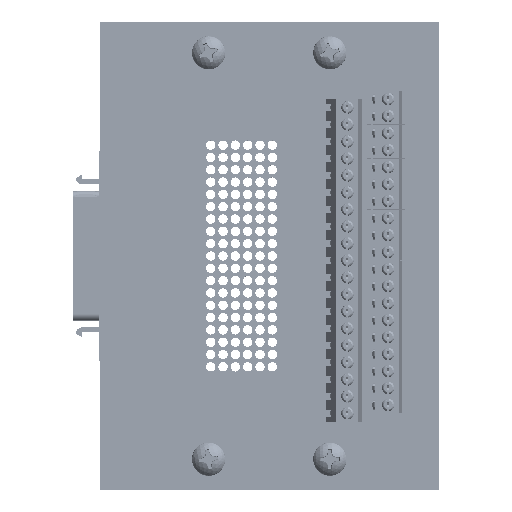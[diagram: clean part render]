
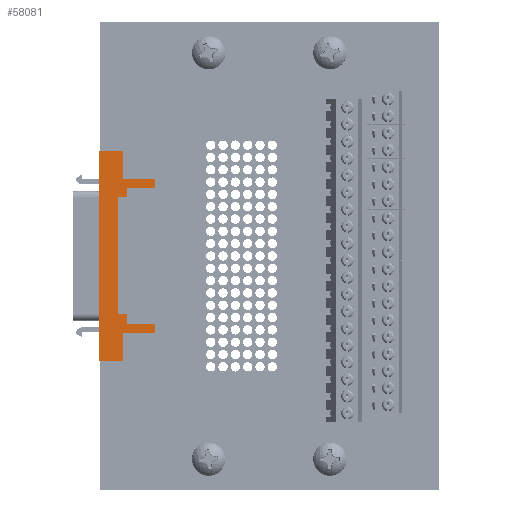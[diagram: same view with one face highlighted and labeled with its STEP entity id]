
A CAD part, top view. The second image highlights one B-rep face of the part: STEP entity #58081.
In plain terms, the highlighted planar face has unit normal (0, 0, 1) as drawn and (0, 1, 0) by its records, which use the part's own axes.
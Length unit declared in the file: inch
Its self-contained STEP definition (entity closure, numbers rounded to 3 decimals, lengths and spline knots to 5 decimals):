
#2733 = VECTOR ( 'NONE', #289558, 39.37008 ) ;
#4441 = CARTESIAN_POINT ( 'NONE',  ( -0.625, 0.37, 0.5275 ) ) ;
#6428 = ORIENTED_EDGE ( 'NONE', *, *, #193450, .T. ) ;
#14424 = ORIENTED_EDGE ( 'NONE', *, *, #263017, .T. ) ;
#15750 = DIRECTION ( 'NONE',  ( -1., 0., 0. ) ) ;
#17171 = LINE ( 'NONE', #116602, #277796 ) ;
#21225 = EDGE_CURVE ( 'NONE', #308977, #80038, #167020, .T. ) ;
#21893 = CARTESIAN_POINT ( 'NONE',  ( 0.625, 0.37, 0.1125 ) ) ;
#24079 = DIRECTION ( 'NONE',  ( 0., 0., -1. ) ) ;
#25393 = VECTOR ( 'NONE', #292263, 39.37008 ) ;
#28828 = VERTEX_POINT ( 'NONE', #254784 ) ;
#30666 = CARTESIAN_POINT ( 'NONE',  ( -0.855, 0.37, 0.3025 ) ) ;
#30918 = EDGE_LOOP ( 'NONE', ( #189302, #213794, #255925, #6428, #226644, #263156, #75652, #289342, #160190, #306452, #14424, #246751, #215505, #171228, #82869, #95259 ) ) ;
#31154 = LINE ( 'NONE', #65639, #153840 ) ;
#33376 = DIRECTION ( 'NONE',  ( 0., 0., -1. ) ) ;
#33661 = PLANE ( 'NONE',  #111152 ) ;
#35344 = DIRECTION ( 'NONE',  ( -1., 0., 0. ) ) ;
#45726 = EDGE_CURVE ( 'NONE', #119980, #143614, #17171, .T. ) ;
#45839 = LINE ( 'NONE', #217790, #295389 ) ;
#51338 = VECTOR ( 'NONE', #33376, 39.37008 ) ;
#51523 = VECTOR ( 'NONE', #249966, 39.37008 ) ;
#52700 = VERTEX_POINT ( 'NONE', #299709 ) ;
#55469 = DIRECTION ( 'NONE',  ( 0., 0., 1. ) ) ;
#58081 = ADVANCED_FACE ( 'NONE', ( #143855 ), #33661, .T. ) ;
#58694 = EDGE_CURVE ( 'NONE', #224138, #52700, #187957, .T. ) ;
#58721 = LINE ( 'NONE', #270594, #51338 ) ;
#59173 = CARTESIAN_POINT ( 'NONE',  ( -0.855, 0.37, 0.5275 ) ) ;
#65639 = CARTESIAN_POINT ( 'NONE',  ( 0., 0.37, 0.075 ) ) ;
#66839 = VERTEX_POINT ( 'NONE', #30666 ) ;
#69007 = VECTOR ( 'NONE', #123923, 39.37008 ) ;
#75652 = ORIENTED_EDGE ( 'NONE', *, *, #150614, .T. ) ;
#77088 = EDGE_CURVE ( 'NONE', #28828, #240525, #263693, .T. ) ;
#78751 = CARTESIAN_POINT ( 'NONE',  ( -0.55, 0.37, -0.1475 ) ) ;
#80038 = VERTEX_POINT ( 'NONE', #169685 ) ;
#80782 = LINE ( 'NONE', #59173, #214817 ) ;
#82869 = ORIENTED_EDGE ( 'NONE', *, *, #306972, .T. ) ;
#83521 = CARTESIAN_POINT ( 'NONE',  ( 0., 0.37, -0.1475 ) ) ;
#84588 = CARTESIAN_POINT ( 'NONE',  ( -0.855, 0.37, 0.3025 ) ) ;
#87003 = CARTESIAN_POINT ( 'NONE',  ( 0.55, 0.37, -0.1475 ) ) ;
#95259 = ORIENTED_EDGE ( 'NONE', *, *, #45726, .T. ) ;
#95727 = CARTESIAN_POINT ( 'NONE',  ( -0.55, 0.37, 0.075 ) ) ;
#96043 = DIRECTION ( 'NONE',  ( 0., 0., 1. ) ) ;
#99109 = CARTESIAN_POINT ( 'NONE',  ( 0.475, 0.37, 0.5275 ) ) ;
#104658 = DIRECTION ( 'NONE',  ( 0., 0., -1. ) ) ;
#106759 = EDGE_CURVE ( 'NONE', #220211, #255208, #198721, .T. ) ;
#111152 = AXIS2_PLACEMENT_3D ( 'NONE', #84588, #200074, #203175 ) ;
#111550 = CARTESIAN_POINT ( 'NONE',  ( 0.55, 0.37, 0.075 ) ) ;
#113452 = LINE ( 'NONE', #125954, #69007 ) ;
#116602 = CARTESIAN_POINT ( 'NONE',  ( 0., 0.37, 0.1125 ) ) ;
#119980 = VERTEX_POINT ( 'NONE', #216712 ) ;
#120826 = VECTOR ( 'NONE', #35344, 39.37008 ) ;
#121719 = CARTESIAN_POINT ( 'NONE',  ( 0.855, 0.37, 0.3025 ) ) ;
#123923 = DIRECTION ( 'NONE',  ( 0., 0., -1. ) ) ;
#125445 = EDGE_CURVE ( 'NONE', #143614, #66839, #80782, .T. ) ;
#125954 = CARTESIAN_POINT ( 'NONE',  ( -0.55, 0.37, 0.5275 ) ) ;
#128888 = DIRECTION ( 'NONE',  ( -1., 0., 0. ) ) ;
#131059 = EDGE_CURVE ( 'NONE', #235013, #28828, #58721, .T. ) ;
#131263 = VERTEX_POINT ( 'NONE', #138235 ) ;
#138235 = CARTESIAN_POINT ( 'NONE',  ( 0.475, 0.37, 0.075 ) ) ;
#141225 = CARTESIAN_POINT ( 'NONE',  ( 0., 0.37, 0.15 ) ) ;
#141725 = VECTOR ( 'NONE', #24079, 39.37008 ) ;
#143614 = VERTEX_POINT ( 'NONE', #284558 ) ;
#143855 = FACE_OUTER_BOUND ( 'NONE', #30918, .T. ) ;
#147539 = EDGE_CURVE ( 'NONE', #299285, #131263, #31154, .T. ) ;
#150614 = EDGE_CURVE ( 'NONE', #240525, #299285, #45839, .T. ) ;
#153039 = CARTESIAN_POINT ( 'NONE',  ( 0.855, 0.37, 0.1125 ) ) ;
#153840 = VECTOR ( 'NONE', #15750, 39.37008 ) ;
#159548 = VECTOR ( 'NONE', #308768, 39.37008 ) ;
#160190 = ORIENTED_EDGE ( 'NONE', *, *, #203394, .T. ) ;
#162729 = LINE ( 'NONE', #195798, #2733 ) ;
#163454 = DIRECTION ( 'NONE',  ( -1., 0., 0. ) ) ;
#165693 = EDGE_CURVE ( 'NONE', #286090, #224138, #113452, .T. ) ;
#167020 = LINE ( 'NONE', #141225, #159548 ) ;
#169685 = CARTESIAN_POINT ( 'NONE',  ( -0.475, 0.37, 0.15 ) ) ;
#171228 = ORIENTED_EDGE ( 'NONE', *, *, #58694, .T. ) ;
#177643 = VECTOR ( 'NONE', #238582, 39.37008 ) ;
#185615 = EDGE_CURVE ( 'NONE', #220211, #66839, #240454, .T. ) ;
#187957 = LINE ( 'NONE', #201779, #120826 ) ;
#189302 = ORIENTED_EDGE ( 'NONE', *, *, #125445, .T. ) ;
#190852 = VECTOR ( 'NONE', #96043, 39.37008 ) ;
#193450 = EDGE_CURVE ( 'NONE', #255208, #235013, #233786, .T. ) ;
#195798 = CARTESIAN_POINT ( 'NONE',  ( 0., 0.37, 0.075 ) ) ;
#198721 = LINE ( 'NONE', #226449, #221132 ) ;
#200074 = DIRECTION ( 'NONE',  ( 0., 1., 0. ) ) ;
#201779 = CARTESIAN_POINT ( 'NONE',  ( 0., 0.37, -0.1475 ) ) ;
#203175 = DIRECTION ( 'NONE',  ( 1., 0., 0. ) ) ;
#203394 = EDGE_CURVE ( 'NONE', #131263, #308977, #284021, .T. ) ;
#213794 = ORIENTED_EDGE ( 'NONE', *, *, #185615, .F. ) ;
#214817 = VECTOR ( 'NONE', #273489, 39.37008 ) ;
#215505 = ORIENTED_EDGE ( 'NONE', *, *, #165693, .T. ) ;
#216712 = CARTESIAN_POINT ( 'NONE',  ( -0.625, 0.37, 0.1125 ) ) ;
#217790 = CARTESIAN_POINT ( 'NONE',  ( 0.55, 0.37, 0.5275 ) ) ;
#220211 = VERTEX_POINT ( 'NONE', #121719 ) ;
#221132 = VECTOR ( 'NONE', #104658, 39.37008 ) ;
#224138 = VERTEX_POINT ( 'NONE', #78751 ) ;
#226449 = CARTESIAN_POINT ( 'NONE',  ( 0.855, 0.37, 0.5275 ) ) ;
#226644 = ORIENTED_EDGE ( 'NONE', *, *, #131059, .T. ) ;
#233786 = LINE ( 'NONE', #290230, #25393 ) ;
#235013 = VERTEX_POINT ( 'NONE', #21893 ) ;
#238582 = DIRECTION ( 'NONE',  ( 0., 0., 1. ) ) ;
#240454 = LINE ( 'NONE', #292385, #244322 ) ;
#240525 = VERTEX_POINT ( 'NONE', #87003 ) ;
#244322 = VECTOR ( 'NONE', #128888, 39.37008 ) ;
#246751 = ORIENTED_EDGE ( 'NONE', *, *, #293343, .T. ) ;
#248942 = VERTEX_POINT ( 'NONE', #251261 ) ;
#249966 = DIRECTION ( 'NONE',  ( -1., 0., 0. ) ) ;
#251261 = CARTESIAN_POINT ( 'NONE',  ( -0.475, 0.37, 0.075 ) ) ;
#254784 = CARTESIAN_POINT ( 'NONE',  ( 0.625, 0.37, -0.1475 ) ) ;
#255208 = VERTEX_POINT ( 'NONE', #153039 ) ;
#255925 = ORIENTED_EDGE ( 'NONE', *, *, #106759, .T. ) ;
#260787 = LINE ( 'NONE', #285185, #141725 ) ;
#263017 = EDGE_CURVE ( 'NONE', #80038, #248942, #260787, .T. ) ;
#263156 = ORIENTED_EDGE ( 'NONE', *, *, #77088, .T. ) ;
#263693 = LINE ( 'NONE', #83521, #51523 ) ;
#270594 = CARTESIAN_POINT ( 'NONE',  ( 0.625, 0.37, 0.5275 ) ) ;
#273489 = DIRECTION ( 'NONE',  ( 0., 0., 1. ) ) ;
#277796 = VECTOR ( 'NONE', #163454, 39.37008 ) ;
#284021 = LINE ( 'NONE', #99109, #190852 ) ;
#284558 = CARTESIAN_POINT ( 'NONE',  ( -0.855, 0.37, 0.1125 ) ) ;
#285185 = CARTESIAN_POINT ( 'NONE',  ( -0.475, 0.37, 0.5275 ) ) ;
#286090 = VERTEX_POINT ( 'NONE', #95727 ) ;
#289342 = ORIENTED_EDGE ( 'NONE', *, *, #147539, .T. ) ;
#289558 = DIRECTION ( 'NONE',  ( -1., 0., 0. ) ) ;
#290230 = CARTESIAN_POINT ( 'NONE',  ( 0., 0.37, 0.1125 ) ) ;
#292263 = DIRECTION ( 'NONE',  ( -1., 0., 0. ) ) ;
#292385 = CARTESIAN_POINT ( 'NONE',  ( 0., 0.37, 0.3025 ) ) ;
#293343 = EDGE_CURVE ( 'NONE', #248942, #286090, #162729, .T. ) ;
#295389 = VECTOR ( 'NONE', #55469, 39.37008 ) ;
#295661 = CARTESIAN_POINT ( 'NONE',  ( 0.475, 0.37, 0.15 ) ) ;
#299285 = VERTEX_POINT ( 'NONE', #111550 ) ;
#299709 = CARTESIAN_POINT ( 'NONE',  ( -0.625, 0.37, -0.1475 ) ) ;
#304289 = LINE ( 'NONE', #4441, #177643 ) ;
#306452 = ORIENTED_EDGE ( 'NONE', *, *, #21225, .T. ) ;
#306972 = EDGE_CURVE ( 'NONE', #52700, #119980, #304289, .T. ) ;
#308768 = DIRECTION ( 'NONE',  ( -1., 0., 0. ) ) ;
#308977 = VERTEX_POINT ( 'NONE', #295661 ) ;
